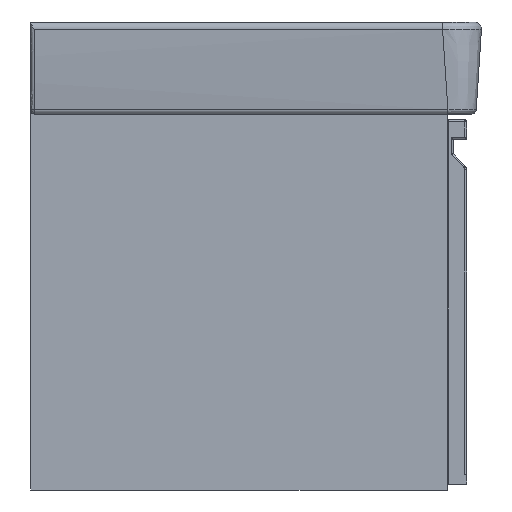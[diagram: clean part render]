
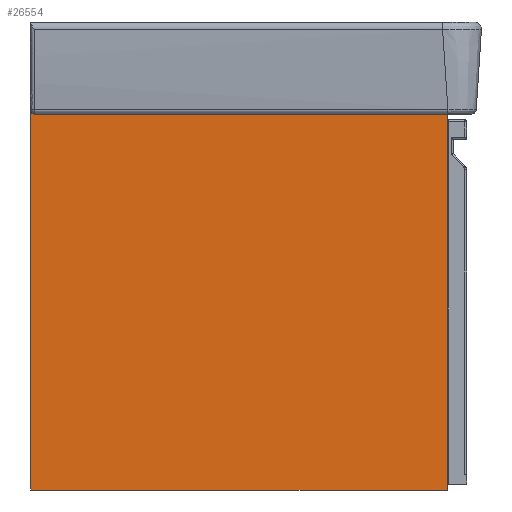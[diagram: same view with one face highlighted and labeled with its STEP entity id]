
A CAD part, left-side view. The second image highlights one B-rep face of the part: STEP entity #26554.
In plain terms, the highlighted planar face has unit normal (-1, 0, 0).
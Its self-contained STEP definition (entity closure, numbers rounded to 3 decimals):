
#953=PLANE('',#30561);
#2757=LINE('',#187117,#4661);
#2761=LINE('',#187125,#4665);
#2764=LINE('',#187132,#4668);
#2765=LINE('',#187133,#4669);
#4661=VECTOR('',#35707,10.);
#4665=VECTOR('',#35713,1.);
#4668=VECTOR('',#35720,430.);
#4669=VECTOR('',#35721,387.);
#6378=FACE_OUTER_BOUND('',#7619,.T.);
#7619=EDGE_LOOP('',(#22985,#22986,#22987,#22988));
#14105=VERTEX_POINT('',#187110);
#14108=VERTEX_POINT('',#187115);
#14111=VERTEX_POINT('',#187123);
#14113=VERTEX_POINT('',#187131);
#18329=EDGE_CURVE('',#14108,#14105,#2757,.T.);
#18333=EDGE_CURVE('',#14108,#14111,#2761,.T.);
#18336=EDGE_CURVE('',#14113,#14111,#2764,.T.);
#18337=EDGE_CURVE('',#14113,#14105,#2765,.T.);
#22985=ORIENTED_EDGE('',*,*,#18329,.F.);
#22986=ORIENTED_EDGE('',*,*,#18333,.T.);
#22987=ORIENTED_EDGE('',*,*,#18336,.F.);
#22988=ORIENTED_EDGE('',*,*,#18337,.T.);
#26554=ADVANCED_FACE('',(#6378),#953,.T.);
#30561=AXIS2_PLACEMENT_3D('',#187130,#35718,#35719);
#35707=DIRECTION('',(0.,-1.,0.));
#35713=DIRECTION('',(0.,0.,-1.));
#35718=DIRECTION('center_axis',(-1.,0.,0.));
#35719=DIRECTION('ref_axis',(0.,0.,1.));
#35720=DIRECTION('',(0.,1.,0.));
#35721=DIRECTION('',(0.,0.,1.));
#187110=CARTESIAN_POINT('',(-13935.071,-15501.725,-1475.291));
#187115=CARTESIAN_POINT('',(-13935.071,-15071.725,-1475.291));
#187117=CARTESIAN_POINT('',(-13935.071,-15071.725,-1475.291));
#187123=CARTESIAN_POINT('',(-13935.071,-15071.725,-1865.291));
#187125=CARTESIAN_POINT('',(-13935.071,-15071.725,-1468.291));
#187130=CARTESIAN_POINT('Origin',(-13935.071,-15071.725,-1865.291));
#187131=CARTESIAN_POINT('',(-13935.071,-15501.725,-1865.291));
#187132=CARTESIAN_POINT('',(-13935.071,-15501.725,-1865.291));
#187133=CARTESIAN_POINT('',(-13935.071,-15501.725,-1865.291));
